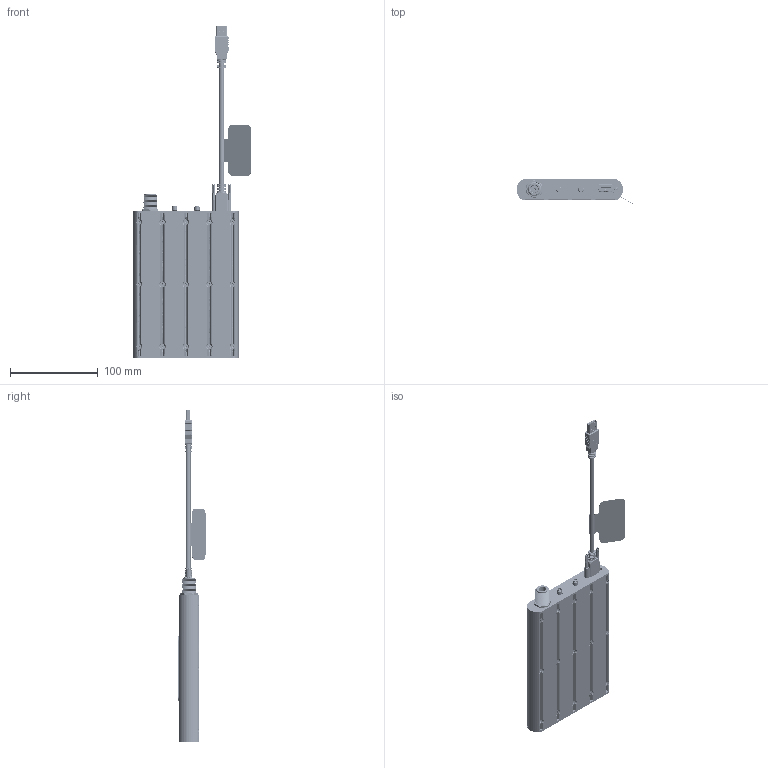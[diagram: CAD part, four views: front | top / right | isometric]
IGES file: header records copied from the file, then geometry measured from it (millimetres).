
Start section: SolidWorks IGES file using NURBS representation for surfaces
Global section: file name: R:\Eng\jimpi\Curveball\models\TEMP\IGES EXTERNAL ONLY\Curveball N without cover.IGS; native system: SolidWorks 2014; preprocessor: SolidWorks 2014; author: jimpi; date: 150526.114904; units: inch
Bounding box: 134.96 x 30.8 x 377.52 mm (x, y, z)
Surface area: 168755.8 mm2 (no closed solid volume)
Topology: 0 solids, 0 shells, 6687 faces, 177855 edges, 214113 vertices
Faces by surface type: bspline 6687
